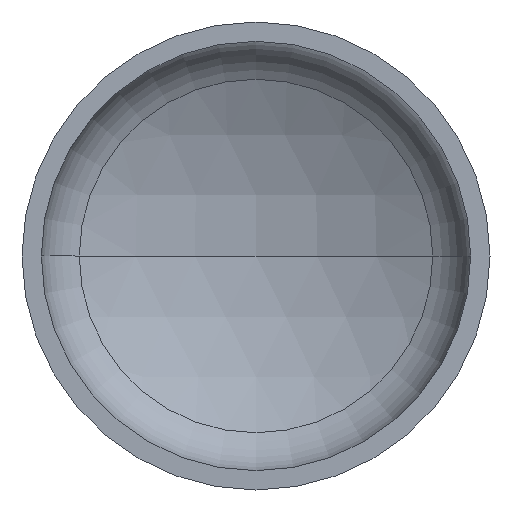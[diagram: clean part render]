
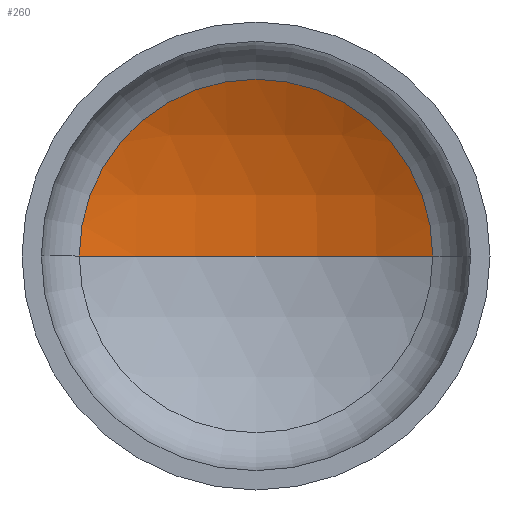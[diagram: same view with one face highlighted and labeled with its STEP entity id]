
A CAD part, front view. The second image highlights one B-rep face of the part: STEP entity #260.
In plain terms, the highlighted spherical face has radius 1200 mm.
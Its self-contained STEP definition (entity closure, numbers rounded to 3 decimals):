
#2 = VERTEX_POINT ( 'NONE', #244 ) ;
#3 = AXIS2_PLACEMENT_3D ( 'NONE', #391, #248, #249 ) ;
#6 = AXIS2_PLACEMENT_3D ( 'NONE', #287, #292, #161 ) ;
#10 = EDGE_LOOP ( 'NONE', ( #23, #19, #131 ) ) ;
#11 = DIRECTION ( 'NONE',  ( 0., 0., -1. ) ) ;
#12 = AXIS2_PLACEMENT_3D ( 'NONE', #279, #203, #404 ) ;
#19 = ORIENTED_EDGE ( 'NONE', *, *, #364, .T. ) ;
#23 = ORIENTED_EDGE ( 'NONE', *, *, #347, .F. ) ;
#36 = FACE_OUTER_BOUND ( 'NONE', #10, .T. ) ;
#41 = AXIS2_PLACEMENT_3D ( 'NONE', #280, #11, #406 ) ;
#53 = VERTEX_POINT ( 'NONE', #286 ) ;
#72 = SPHERICAL_SURFACE ( 'NONE', #41, 1200. ) ;
#110 = VERTEX_POINT ( 'NONE', #186 ) ;
#131 = ORIENTED_EDGE ( 'NONE', *, *, #370, .T. ) ;
#161 = DIRECTION ( 'NONE',  ( -1., 0., 0. ) ) ;
#186 = CARTESIAN_POINT ( 'NONE',  ( 0., 464.935, 0. ) ) ;
#203 = DIRECTION ( 'NONE',  ( 0., 0., 1. ) ) ;
#244 = CARTESIAN_POINT ( 'NONE',  ( 566.598, 322.747, 0. ) ) ;
#248 = DIRECTION ( 'NONE',  ( 0., -1., 0. ) ) ;
#249 = DIRECTION ( 'NONE',  ( 1., 0., 0. ) ) ;
#260 = ADVANCED_FACE ( 'NONE', ( #36 ), #72, .F. ) ;
#261 = CIRCLE ( 'NONE', #12, 1200. ) ;
#279 = CARTESIAN_POINT ( 'NONE',  ( 0., -735.065, 0. ) ) ;
#280 = CARTESIAN_POINT ( 'NONE',  ( 0., -735.065, 0. ) ) ;
#286 = CARTESIAN_POINT ( 'NONE',  ( -566.598, 322.747, 0. ) ) ;
#287 = CARTESIAN_POINT ( 'NONE',  ( 0., -735.065, 0. ) ) ;
#292 = DIRECTION ( 'NONE',  ( 0., 0., -1. ) ) ;
#320 = CIRCLE ( 'NONE', #6, 1200. ) ;
#347 = EDGE_CURVE ( 'NONE', #110, #53, #261, .T. ) ;
#364 = EDGE_CURVE ( 'NONE', #110, #2, #320, .T. ) ;
#370 = EDGE_CURVE ( 'NONE', #2, #53, #386, .T. ) ;
#386 = CIRCLE ( 'NONE', #3, 566.598 ) ;
#391 = CARTESIAN_POINT ( 'NONE',  ( 0., 322.747, 0. ) ) ;
#404 = DIRECTION ( 'NONE',  ( 1., 0., 0. ) ) ;
#406 = DIRECTION ( 'NONE',  ( -1., 0., 0. ) ) ;
